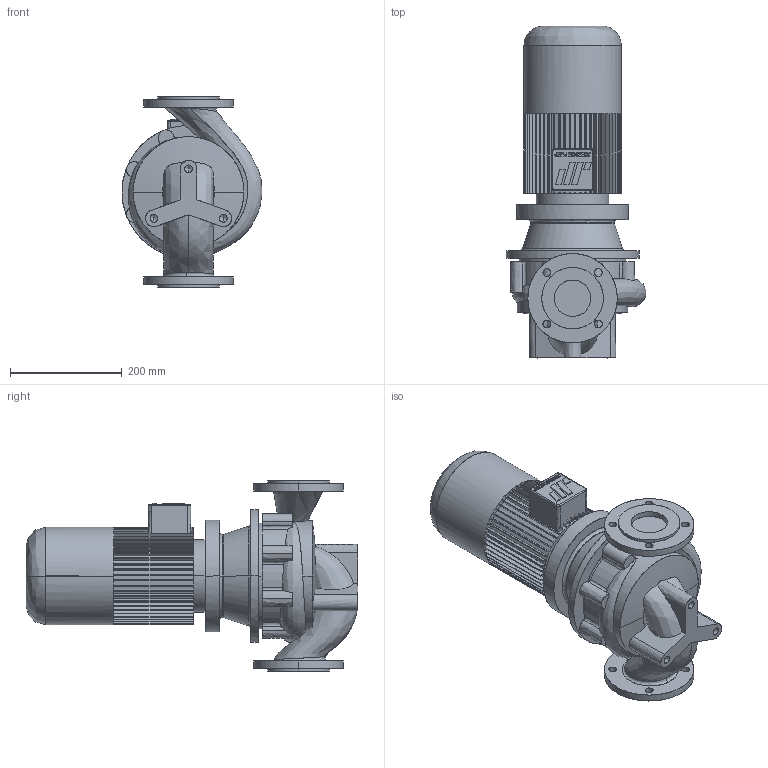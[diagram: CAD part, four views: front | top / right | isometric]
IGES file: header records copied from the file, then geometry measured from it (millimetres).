
Start section: CombiLine
Global section: file name: CLB_65-160_IEC90L.igs; native system:  By UGS Corp.; preprocessor: XPlus GENERIC/IGES 3.0; author: Stageplaats; organization: Johnson Pump Water B.V.; date: 20070713.132828; units: millimetre
Bounding box: 250.23 x 593.5 x 340 mm (x, y, z)
Surface area: 734397.8 mm2 (no closed solid volume)
Topology: 0 solids, 0 shells, 541 faces, 3292 edges, 3286 vertices
Faces by surface type: bspline 541
